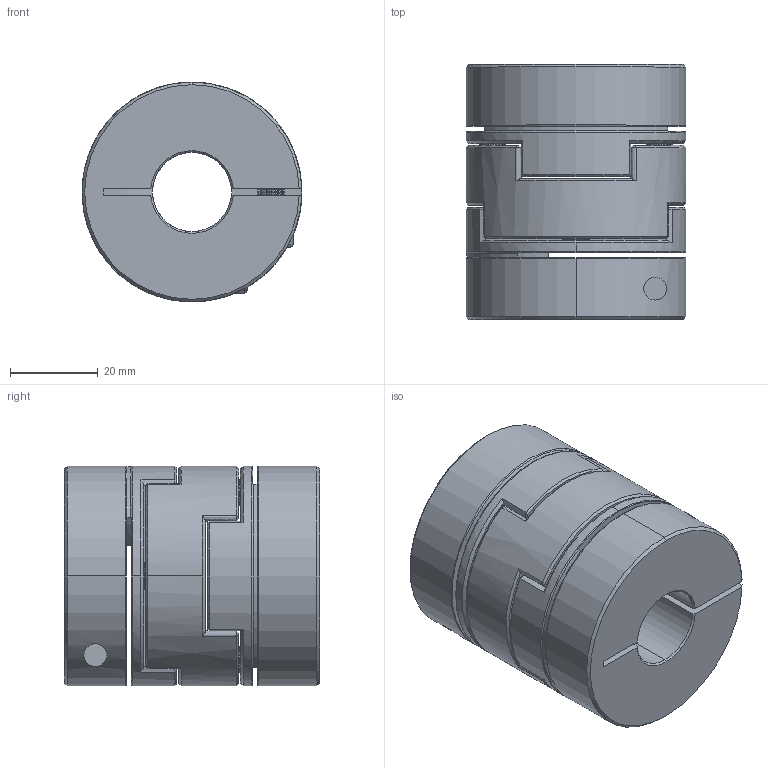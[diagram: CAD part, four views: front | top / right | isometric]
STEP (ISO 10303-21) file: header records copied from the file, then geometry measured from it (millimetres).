
FILE_DESCRIPTION (( 'STEP AP203' ), '1' );
FILE_NAME ('LZ-B-D50L58-18-20.STEP', '2021-10-29T08:13:31', ( '' ), ( '' ), 'SwSTEP 2.0', 'SolidWorks 2018', '' );
FILE_SCHEMA (( 'CONFIG_CONTROL_DESIGN' ));
Length unit declared in the file: millimetre
Products named in the file (1): LZ-B-D50L58-18-20
Bounding box: 50 x 58 x 50 mm (x, y, z)
Volume: 89186.6 mm3; surface area: 29831.4 mm2
Topology: 1 solids, 27 shells, 560 faces, 1364 edges, 810 vertices
Faces by surface type: cone 252, cylinder 160, plane 90, bspline 54, torus 4
Entity records: 17422 total; most frequent: CARTESIAN_POINT 4342, DIRECTION 2782, ORIENTED_EDGE 2720, EDGE_CURVE 1360, AXIS2_PLACEMENT_3D 1123, VERTEX_POINT 810, CIRCLE 616, EDGE_LOOP 594
